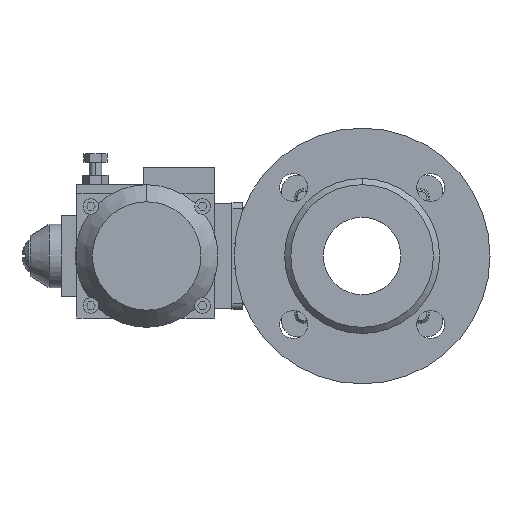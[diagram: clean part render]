
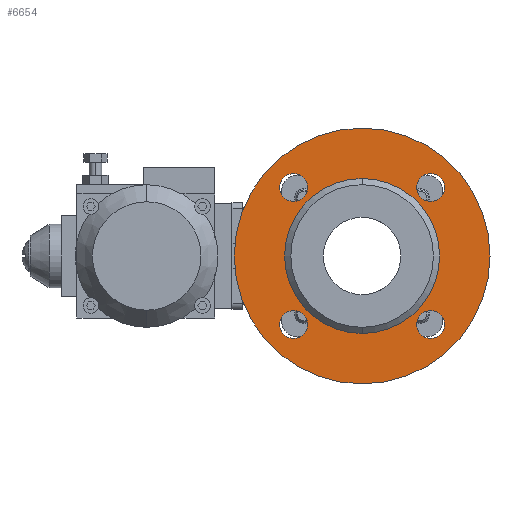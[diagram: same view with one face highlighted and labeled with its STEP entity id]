
A CAD part, left-side view. The second image highlights one B-rep face of the part: STEP entity #6654.
In plain terms, the highlighted planar face has unit normal (-1, 0, 0).
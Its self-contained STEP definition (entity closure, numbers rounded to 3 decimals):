
#1784=CARTESIAN_POINT('',(-57.,0.,0.));
#1785=DIRECTION('',(-1.,0.,0.));
#1786=DIRECTION('',(0.,0.,1.));
#1787=AXIS2_PLACEMENT_3D('',#1784,#1785,#1786);
#1789=CARTESIAN_POINT('',(-57.,0.,0.));
#1790=DIRECTION('',(-1.,0.,0.));
#1791=DIRECTION('',(0.,0.,-1.));
#1792=AXIS2_PLACEMENT_3D('',#1789,#1790,#1791);
#1794=CARTESIAN_POINT('',(-57.,0.,0.));
#1795=DIRECTION('',(-1.,0.,0.));
#1796=DIRECTION('',(0.,0.,1.));
#1797=AXIS2_PLACEMENT_3D('',#1794,#1795,#1796);
#1799=CARTESIAN_POINT('',(-57.,0.,0.));
#1800=DIRECTION('',(-1.,0.,0.));
#1801=DIRECTION('',(0.,0.,-1.));
#1802=AXIS2_PLACEMENT_3D('',#1799,#1800,#1801);
#1804=CARTESIAN_POINT('',(-57.,44.194,-44.194));
#1805=DIRECTION('',(-1.,0.,0.));
#1806=DIRECTION('',(0.,0.,1.));
#1807=AXIS2_PLACEMENT_3D('',#1804,#1805,#1806);
#1809=CARTESIAN_POINT('',(-57.,44.194,-44.194));
#1810=DIRECTION('',(-1.,0.,0.));
#1811=DIRECTION('',(0.,0.,-1.));
#1812=AXIS2_PLACEMENT_3D('',#1809,#1810,#1811);
#1814=CARTESIAN_POINT('',(-57.,-44.194,-44.194));
#1815=DIRECTION('',(-1.,0.,0.));
#1816=DIRECTION('',(0.,1.,0.));
#1817=AXIS2_PLACEMENT_3D('',#1814,#1815,#1816);
#1819=CARTESIAN_POINT('',(-57.,-44.194,-44.194));
#1820=DIRECTION('',(-1.,0.,0.));
#1821=DIRECTION('',(0.,-1.,0.));
#1822=AXIS2_PLACEMENT_3D('',#1819,#1820,#1821);
#1824=CARTESIAN_POINT('',(-57.,-44.194,44.194));
#1825=DIRECTION('',(-1.,0.,0.));
#1826=DIRECTION('',(0.,0.,-1.));
#1827=AXIS2_PLACEMENT_3D('',#1824,#1825,#1826);
#1829=CARTESIAN_POINT('',(-57.,-44.194,44.194));
#1830=DIRECTION('',(-1.,0.,0.));
#1831=DIRECTION('',(0.,0.,1.));
#1832=AXIS2_PLACEMENT_3D('',#1829,#1830,#1831);
#1834=CARTESIAN_POINT('',(-57.,44.194,44.194));
#1835=DIRECTION('',(-1.,0.,0.));
#1836=DIRECTION('',(0.,-1.,0.));
#1837=AXIS2_PLACEMENT_3D('',#1834,#1835,#1836);
#1839=CARTESIAN_POINT('',(-57.,44.194,44.194));
#1840=DIRECTION('',(-1.,0.,0.));
#1841=DIRECTION('',(0.,1.,0.));
#1842=AXIS2_PLACEMENT_3D('',#1839,#1840,#1841);
#3570=CARTESIAN_POINT('',(-57.,0.,82.5));
#3571=CARTESIAN_POINT('',(-57.,0.,-82.5));
#3572=VERTEX_POINT('',#3570);
#3573=VERTEX_POINT('',#3571);
#3582=CARTESIAN_POINT('',(-57.,0.,50.));
#3583=CARTESIAN_POINT('',(-57.,0.,-50.));
#3584=VERTEX_POINT('',#3582);
#3585=VERTEX_POINT('',#3583);
#3646=CARTESIAN_POINT('',(-57.,44.194,-35.194));
#3647=CARTESIAN_POINT('',(-57.,44.194,-53.194));
#3648=VERTEX_POINT('',#3646);
#3649=VERTEX_POINT('',#3647);
#3654=CARTESIAN_POINT('',(-57.,-35.194,-44.194));
#3655=CARTESIAN_POINT('',(-57.,-53.194,-44.194));
#3656=VERTEX_POINT('',#3654);
#3657=VERTEX_POINT('',#3655);
#3662=CARTESIAN_POINT('',(-57.,-44.194,35.194));
#3663=CARTESIAN_POINT('',(-57.,-44.194,53.194));
#3664=VERTEX_POINT('',#3662);
#3665=VERTEX_POINT('',#3663);
#3670=CARTESIAN_POINT('',(-57.,35.194,44.194));
#3671=CARTESIAN_POINT('',(-57.,53.194,44.194));
#3672=VERTEX_POINT('',#3670);
#3673=VERTEX_POINT('',#3671);
#6614=CARTESIAN_POINT('',(-57.,0.,0.));
#6615=DIRECTION('',(-1.,0.,0.));
#6616=DIRECTION('',(0.,0.,1.));
#6617=AXIS2_PLACEMENT_3D('',#6614,#6615,#6616);
#6618=PLANE('',#6617);
#6619=ORIENTED_EDGE('',*,*,#6604,.F.);
#6621=ORIENTED_EDGE('',*,*,#6620,.F.);
#6622=EDGE_LOOP('',(#6619,#6621));
#6623=FACE_OUTER_BOUND('',#6622,.F.);
#6625=ORIENTED_EDGE('',*,*,#6624,.T.);
#6627=ORIENTED_EDGE('',*,*,#6626,.T.);
#6628=EDGE_LOOP('',(#6625,#6627));
#6629=FACE_BOUND('',#6628,.F.);
#6631=ORIENTED_EDGE('',*,*,#6630,.T.);
#6633=ORIENTED_EDGE('',*,*,#6632,.T.);
#6634=EDGE_LOOP('',(#6631,#6633));
#6635=FACE_BOUND('',#6634,.F.);
#6637=ORIENTED_EDGE('',*,*,#6636,.T.);
#6639=ORIENTED_EDGE('',*,*,#6638,.T.);
#6640=EDGE_LOOP('',(#6637,#6639));
#6641=FACE_BOUND('',#6640,.F.);
#6643=ORIENTED_EDGE('',*,*,#6642,.T.);
#6645=ORIENTED_EDGE('',*,*,#6644,.T.);
#6646=EDGE_LOOP('',(#6643,#6645));
#6647=FACE_BOUND('',#6646,.F.);
#6649=ORIENTED_EDGE('',*,*,#6648,.T.);
#6651=ORIENTED_EDGE('',*,*,#6650,.T.);
#6652=EDGE_LOOP('',(#6649,#6651));
#6653=FACE_BOUND('',#6652,.F.);
#6654=ADVANCED_FACE('',(#6623,#6629,#6635,#6641,#6647,#6653),#6618,.T.);
#1788=CIRCLE('',#1787,82.5);
#1793=CIRCLE('',#1792,82.5);
#1798=CIRCLE('',#1797,50.);
#1803=CIRCLE('',#1802,50.);
#1808=CIRCLE('',#1807,9.);
#1813=CIRCLE('',#1812,9.);
#1818=CIRCLE('',#1817,9.);
#1823=CIRCLE('',#1822,9.);
#1828=CIRCLE('',#1827,9.);
#1833=CIRCLE('',#1832,9.);
#1838=CIRCLE('',#1837,9.);
#1843=CIRCLE('',#1842,9.);
#6604=EDGE_CURVE('',#3572,#3573,#1788,.T.);
#6620=EDGE_CURVE('',#3573,#3572,#1793,.T.);
#6624=EDGE_CURVE('',#3584,#3585,#1798,.T.);
#6626=EDGE_CURVE('',#3585,#3584,#1803,.T.);
#6630=EDGE_CURVE('',#3648,#3649,#1808,.T.);
#6632=EDGE_CURVE('',#3649,#3648,#1813,.T.);
#6636=EDGE_CURVE('',#3656,#3657,#1818,.T.);
#6638=EDGE_CURVE('',#3657,#3656,#1823,.T.);
#6642=EDGE_CURVE('',#3664,#3665,#1828,.T.);
#6644=EDGE_CURVE('',#3665,#3664,#1833,.T.);
#6648=EDGE_CURVE('',#3672,#3673,#1838,.T.);
#6650=EDGE_CURVE('',#3673,#3672,#1843,.T.);
